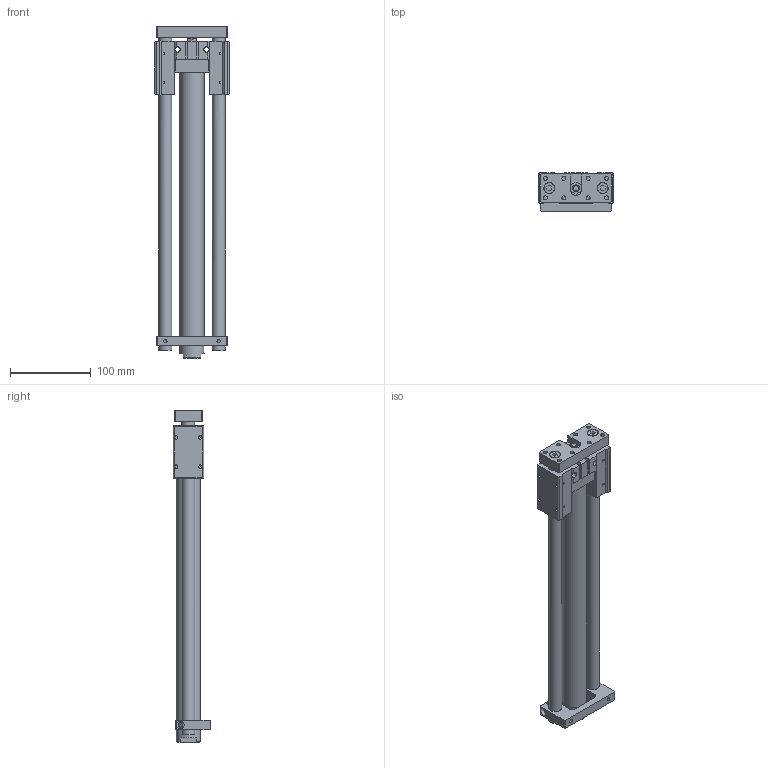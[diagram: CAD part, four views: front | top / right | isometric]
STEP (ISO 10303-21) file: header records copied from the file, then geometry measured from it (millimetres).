
FILE_DESCRIPTION((''),'2;1');
FILE_NAME('I:\3D電子目錄\氣缸\TMB(U)\TMB(U)\TMB(U)25\TMB(U)25x300.stp','2007-10-05T09:33:42',('Administrator'),(''),'Autodesk Inventor 11','Autodesk Inventor 11','');
FILE_SCHEMA(('AUTOMOTIVE_DESIGN { 1 0 10303 214 1 1 1 1 }'));
Length unit declared in the file: millimetre
Products named in the file (1): TMB(U)25
Bounding box: 92 x 47 x 411 mm (x, y, z)
Volume: 600266.4 mm3; surface area: 118241.4 mm2
Topology: 1 solids, 1 shells, 243 faces, 727 edges, 476 vertices
Faces by surface type: plane 149, bspline 49, cylinder 28, cone 17
Full cylindrical faces by diameter (mm): 4.134 x4, 5.5 x1, 8 x2, 9.5 x1, 13 x2, 14 x2, 16 x3, 30 x2
Entity records: 8294 total; most frequent: CARTESIAN_POINT 2323, ORIENTED_EDGE 1234, DIRECTION 1136, EDGE_CURVE 617, VERTEX_POINT 433, VECTOR 408, LINE 408, AXIS2_PLACEMENT_3D 364
